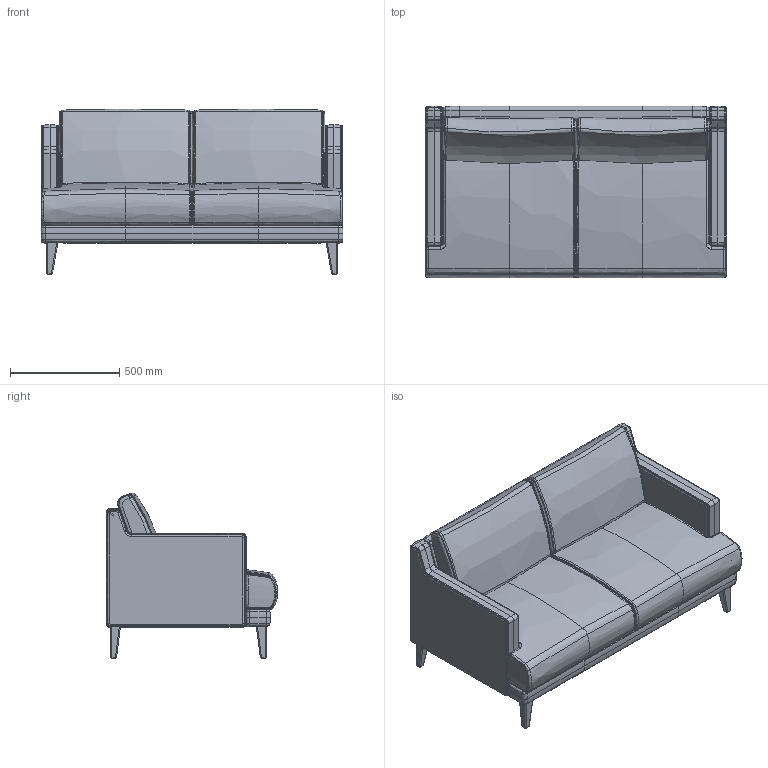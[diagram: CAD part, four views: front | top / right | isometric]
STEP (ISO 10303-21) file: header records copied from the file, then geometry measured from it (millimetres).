
FILE_DESCRIPTION(/* description */ (''),/* implementation_level */ '2;1');
FILE_NAME(/* name */ 'CC Resimercial Love.step',/* time_stamp */ '2025-08-19T08:41:20-07:00',/* author */ (''),/* organization */ (''),/* preprocessor_version */ 'ST-DEVELOPER v20.1',/* originating_system */ 'Autodesk Translation Framework v14.10.0.0',/* authorisation */ '');
FILE_SCHEMA (('AUTOMOTIVE_DESIGN { 1 0 10303 214 3 1 1 }'));
Products named in the file (1): 1
Bounding box: 1384.3 x 785.71 x 757.64 mm (x, y, z)
Volume: 383576530.5 mm3; surface area: 11654245.7 mm2
Topology: 28 solids, 34 shells, 940 faces, 2199 edges, 1301 vertices
Faces by surface type: bspline 752, plane 89, cylinder 71, sphere 24, torus 4
Full cylindrical faces by diameter (mm): 16.51 x4
Entity records: 53038 total; most frequent: CARTESIAN_POINT 36176, ORIENTED_EDGE 4382, EDGE_CURVE 2191, DIRECTION 2034, VERTEX_POINT 1297, B_SPLINE_CURVE_WITH_KNOTS 1137, FACE_OUTER_BOUND 932, EDGE_LOOP 932
